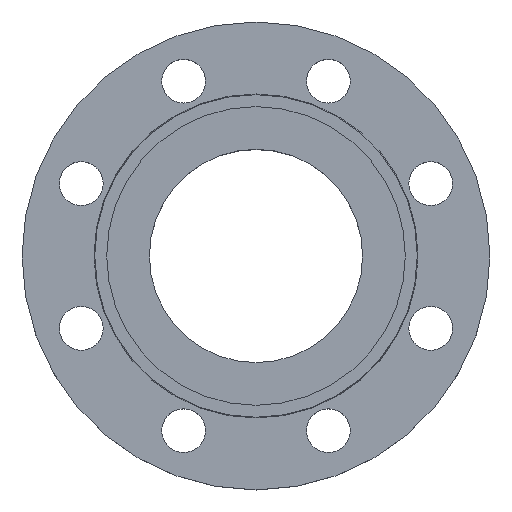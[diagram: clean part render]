
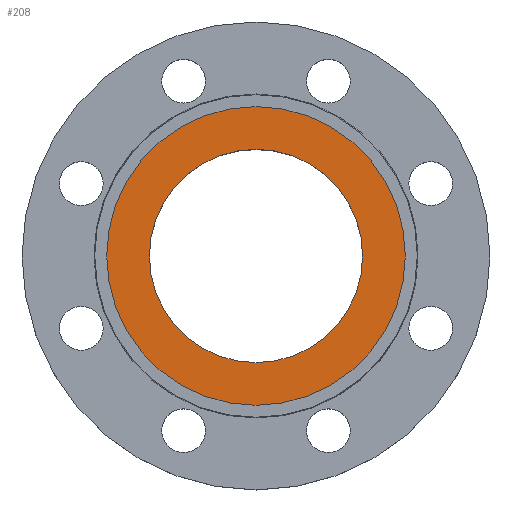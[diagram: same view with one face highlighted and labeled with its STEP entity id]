
A CAD part, top view. The second image highlights one B-rep face of the part: STEP entity #208.
In plain terms, the highlighted planar face has unit normal (0, 0, 1).
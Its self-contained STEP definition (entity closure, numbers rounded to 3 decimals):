
#45 = CARTESIAN_POINT ( 'NONE',  ( -53.55, 0., -4.5 ) ) ;
#57 = AXIS2_PLACEMENT_3D ( 'NONE', #346, #345, #344 ) ;
#67 = CARTESIAN_POINT ( 'NONE',  ( 53.55, 0., -4.5 ) ) ;
#89 = EDGE_CURVE ( 'NONE', #1045, #1059, #225, .T. ) ;
#176 = CARTESIAN_POINT ( 'NONE',  ( -75., 0., -4.5 ) ) ;
#208 = ADVANCED_FACE ( 'NONE', ( #637, #636 ), #699, .T. ) ;
#225 = CIRCLE ( 'NONE', #317, 53.55 ) ;
#228 = CIRCLE ( 'NONE', #57, 75. ) ;
#244 = CARTESIAN_POINT ( 'NONE',  ( 75., 0., -4.5 ) ) ;
#271 = DIRECTION ( 'NONE',  ( 1., 0., 0. ) ) ;
#272 = DIRECTION ( 'NONE',  ( 0., 0., -1. ) ) ;
#273 = CARTESIAN_POINT ( 'NONE',  ( 0., 0., -4.5 ) ) ;
#317 = AXIS2_PLACEMENT_3D ( 'NONE', #999, #1000, #1001 ) ;
#344 = DIRECTION ( 'NONE',  ( -1., 0., 0. ) ) ;
#345 = DIRECTION ( 'NONE',  ( 0., 0., -1. ) ) ;
#346 = CARTESIAN_POINT ( 'NONE',  ( 0., 0., -4.5 ) ) ;
#491 = DIRECTION ( 'NONE',  ( -1., 0., 0. ) ) ;
#492 = DIRECTION ( 'NONE',  ( 0., 0., -1. ) ) ;
#495 = CARTESIAN_POINT ( 'NONE',  ( 0., 0., -4.5 ) ) ;
#618 = DIRECTION ( 'NONE',  ( 0., 0., 1. ) ) ;
#636 = FACE_OUTER_BOUND ( 'NONE', #1061, .T. ) ;
#637 = FACE_BOUND ( 'NONE', #794, .T. ) ;
#643 = EDGE_CURVE ( 'NONE', #923, #952, #763, .T. ) ;
#662 = DIRECTION ( 'NONE',  ( 1., 0., 0. ) ) ;
#675 = AXIS2_PLACEMENT_3D ( 'NONE', #1033, #618, #662 ) ;
#699 = PLANE ( 'NONE',  #675 ) ;
#756 = CIRCLE ( 'NONE', #759, 53.55 ) ;
#759 = AXIS2_PLACEMENT_3D ( 'NONE', #273, #272, #271 ) ;
#761 = AXIS2_PLACEMENT_3D ( 'NONE', #495, #492, #491 ) ;
#763 = CIRCLE ( 'NONE', #761, 75. ) ;
#778 = EDGE_CURVE ( 'NONE', #952, #923, #228, .T. ) ;
#794 = EDGE_LOOP ( 'NONE', ( #1194, #1195 ) ) ;
#909 = EDGE_CURVE ( 'NONE', #1059, #1045, #756, .T. ) ;
#923 = VERTEX_POINT ( 'NONE', #244 ) ;
#952 = VERTEX_POINT ( 'NONE', #176 ) ;
#999 = CARTESIAN_POINT ( 'NONE',  ( 0., 0., -4.5 ) ) ;
#1000 = DIRECTION ( 'NONE',  ( 0., 0., -1. ) ) ;
#1001 = DIRECTION ( 'NONE',  ( 1., 0., 0. ) ) ;
#1033 = CARTESIAN_POINT ( 'NONE',  ( 75., 0., -4.5 ) ) ;
#1045 = VERTEX_POINT ( 'NONE', #67 ) ;
#1059 = VERTEX_POINT ( 'NONE', #45 ) ;
#1061 = EDGE_LOOP ( 'NONE', ( #1196, #1197 ) ) ;
#1194 = ORIENTED_EDGE ( 'NONE', *, *, #909, .T. ) ;
#1195 = ORIENTED_EDGE ( 'NONE', *, *, #89, .T. ) ;
#1196 = ORIENTED_EDGE ( 'NONE', *, *, #778, .F. ) ;
#1197 = ORIENTED_EDGE ( 'NONE', *, *, #643, .F. ) ;
